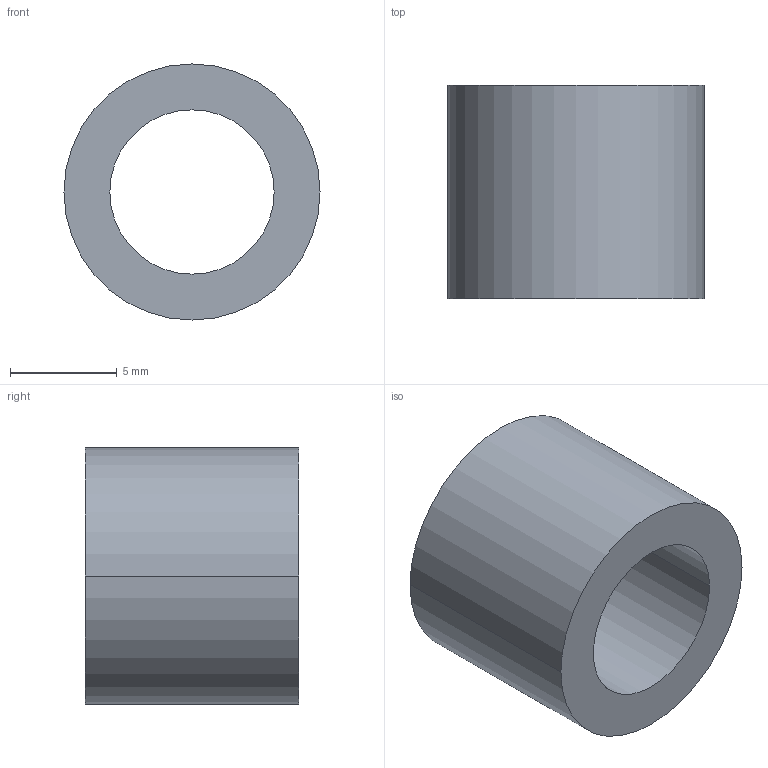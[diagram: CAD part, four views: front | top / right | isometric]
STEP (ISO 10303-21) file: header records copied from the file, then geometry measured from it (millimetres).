
FILE_DESCRIPTION (( 'STEP AP203' ), '1' );
FILE_NAME ('30800.WPP12D7.7.step', '2019-01-23T22:28:28', ( '' ), ( '' ), 'SwSTEP 2.0', 'SolidWorks 2017', '' );
FILE_SCHEMA (( 'CONFIG_CONTROL_DESIGN' ));
Length unit declared in the file: millimetre
Products named in the file (1): 30800.WPP12D7.7
Bounding box: 12 x 10 x 12 mm (x, y, z)
Volume: 652.6 mm3; surface area: 737.4 mm2
Topology: 1 solids, 1 shells, 8 faces, 16 edges, 10 vertices
Faces by surface type: cylinder 4, torus 2, plane 2
Entity records: 297 total; most frequent: DIRECTION 46, CARTESIAN_POINT 35, ORIENTED_EDGE 32, AXIS2_PLACEMENT_3D 21, EDGE_CURVE 16, CIRCLE 12, EDGE_LOOP 10, VERTEX_POINT 10
